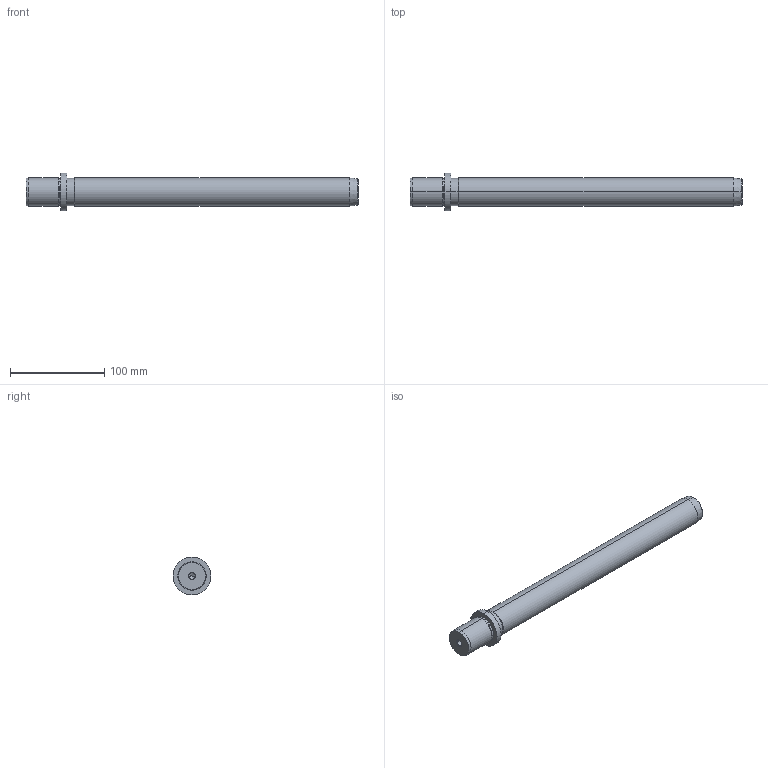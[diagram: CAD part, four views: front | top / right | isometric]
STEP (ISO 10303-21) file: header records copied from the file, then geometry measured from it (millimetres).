
FILE_DESCRIPTION(('CATIA V5 STEP Exchange'),'2;1');
FILE_NAME('C:\Users\Utente\Desktop\IO LAVORO\3D X SITO CF\X SITO\719\719-30x315.stp','2021-01-03T16:02:52+00:00',('none'),('none'),'CATIA Version 5 Release 20 GA (IN-10)','CATIA V5 STEP AP203','none');
FILE_SCHEMA(('CONFIG_CONTROL_DESIGN'));
Length unit declared in the file: millimetre
Products named in the file (1): 719-30x315
Bounding box: 352 x 40 x 40 mm (x, y, z)
Volume: 249303.8 mm3; surface area: 36756.2 mm2
Topology: 1 solids, 1 shells, 36 faces, 100 edges, 66 vertices
Faces by surface type: cone 16, cylinder 14, plane 4, torus 2
Entity records: 1267 total; most frequent: CARTESIAN_POINT 334, ORIENTED_EDGE 192, DIRECTION 159, EDGE_CURVE 96, AXIS2_PLACEMENT_3D 94, VERTEX_POINT 66, CIRCLE 57, EDGE_LOOP 40
